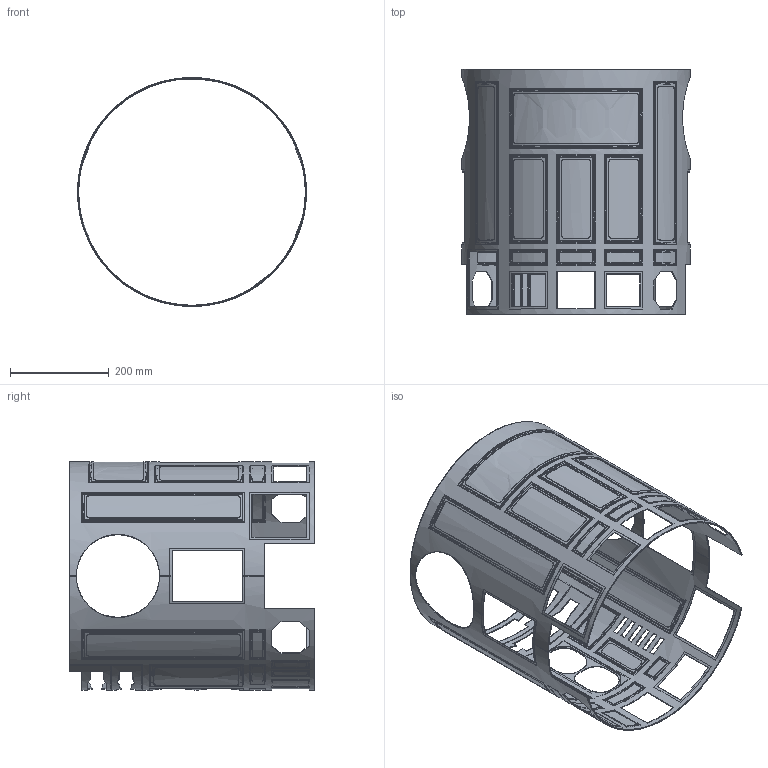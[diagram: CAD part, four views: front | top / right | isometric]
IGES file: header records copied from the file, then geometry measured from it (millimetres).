
Start section: 3D InterOp IGES (Version 21 0 3), Spatial Corp. Copyright (c) 1999-2007.
Global section: file name: CSR SKIN Rolled Assembly ESB - 20140501 3D - IGES.igs; native system: Spatial Corp.; preprocessor: 3D InterOp GENERIC/IGES 3.0; author: Noname; organization: Noname; date: 20140522.012625; units: inch
Bounding box: 463.55 x 496.89 x 463.55 mm (x, y, z)
Surface area: 1761302.2 mm2 (no closed solid volume)
Topology: 0 solids, 0 shells, 814 faces, 4272 edges, 4272 vertices
Faces by surface type: extrusion 624, bspline 139, offset 51
